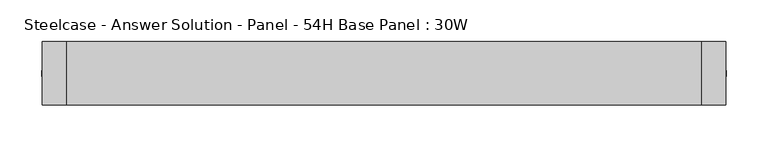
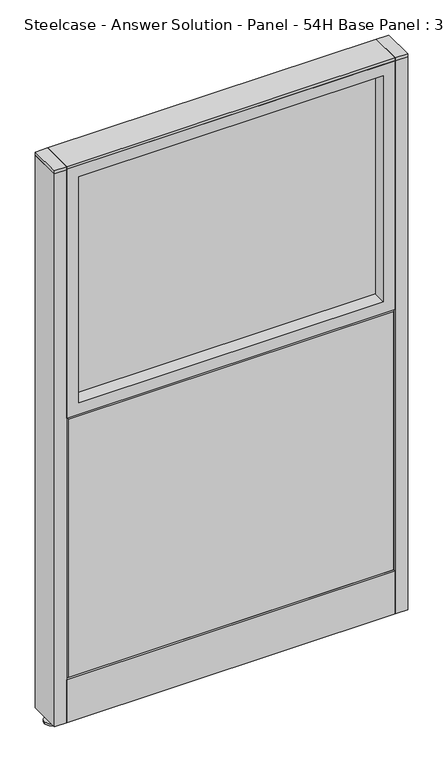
"""IFC4 building model written with IfcOpenShell, lengths in millimetres: furniture geometry, Steelcase - Answer Solution - Panel - 54H Base Panel : 30W."""

from ifc_helpers import new_model, si_unit, point, frame, frame_2d, origin, place, context, project, spatial, polyline, circle_curve, trimmed, segment, composite_curve, outline, extrude, faceted_brep, source, transform, mapped, element, save


def steelcase_answer_solution_panel_54h_base_panel_30w_10e1b337(model_context):
    return source(origin(), model_context, "Body", "SolidModel", [
        extrude(outline(composite_curve([segment(trimmed(circle_curve(frame_2d((395.224, 0.0320214)), 5.08), [point((400.304, 0.0320214))], [point((390.144, 0.0320214))], False, "CARTESIAN"), True, "CONTINUOUS"), segment(trimmed(circle_curve(frame_2d((395.224, 0.0320214)), 5.08), [point((390.144, 0.0320214))], [point((400.304, 0.0320214))], False, "CARTESIAN"), True, "CONTINUOUS")], self_intersect=False)), frame((0.0, 0.0, 5.0799671), z_axis=(0.0, 0.0, 1.0), x_axis=(1.0, 0.0, 0.0)), (0.0, 0.0, 1.0), 10.414),
        extrude(outline(composite_curve([segment(trimmed(circle_curve(frame_2d((395.224, 0.0320214)), 15.24), [point((410.464, 0.0320214))], [point((379.984, 0.0320214))], False, "CARTESIAN"), True, "CONTINUOUS"), segment(trimmed(circle_curve(frame_2d((395.224, 0.0320214)), 15.24), [point((379.984, 0.0320214))], [point((410.464, 0.0320214))], False, "CARTESIAN"), True, "CONTINUOUS")], self_intersect=False)), frame((0.0, 0.0, -3.29e-05), z_axis=(0.0, 0.0, 1.0), x_axis=(1.0, 0.0, 0.0)), (0.0, 0.0, 1.0), 5.08),
        extrude(outline(polyline([(409.575, 38.1320408), (409.575, -38.0679592), (381.0, -38.0679592), (381.0, 38.1320408), (409.575, 38.1320408)])), frame((0.0, 0.0, 1370.6348), z_axis=(0.0, 0.0, 1.0), x_axis=(1.0, 0.0, 0.0)), (0.0, 0.0, 1.0), 7.3151671),
        extrude(outline(polyline([(409.575, 38.1320408), (409.575, -38.0679592), (381.0, -38.0679592), (381.0, 38.1320408), (409.575, 38.1320408)])), frame((0.0, 0.0, 15.4939671), z_axis=(0.0, 0.0, 1.0), x_axis=(1.0, 0.0, 0.0)), (0.0, 0.0, 1.0), 1355.1408329),
        extrude(outline(composite_curve([segment(trimmed(circle_curve(frame_2d((-395.224, 0.0320214)), 5.08), [point((-400.304, 0.0320214))], [point((-390.144, 0.0320214))], False, "CARTESIAN"), True, "CONTINUOUS"), segment(trimmed(circle_curve(frame_2d((-395.224, 0.0320214)), 5.08), [point((-390.144, 0.0320214))], [point((-400.304, 0.0320214))], False, "CARTESIAN"), True, "CONTINUOUS")], self_intersect=False)), frame((0.0, 0.0, 5.0799671), z_axis=(0.0, 0.0, 1.0), x_axis=(1.0, 0.0, 0.0)), (0.0, 0.0, 1.0), 10.414),
        extrude(outline(composite_curve([segment(trimmed(circle_curve(frame_2d((-395.224, 0.0320214)), 15.24), [point((-410.464, 0.0320214))], [point((-379.984, 0.0320214))], False, "CARTESIAN"), True, "CONTINUOUS"), segment(trimmed(circle_curve(frame_2d((-395.224, 0.0320214)), 15.24), [point((-379.984, 0.0320214))], [point((-410.464, 0.0320214))], False, "CARTESIAN"), True, "CONTINUOUS")], self_intersect=False)), frame((0.0, 0.0, -3.29e-05), z_axis=(0.0, 0.0, 1.0), x_axis=(1.0, 0.0, 0.0)), (0.0, 0.0, 1.0), 5.08),
        extrude(outline(polyline([(-409.575, 38.1320408), (-381.0, 38.1320408), (-381.0, -38.0679592), (-409.575, -38.0679592), (-409.575, 38.1320408)])), frame((0.0, 0.0, 1370.6348), z_axis=(0.0, 0.0, 1.0), x_axis=(1.0, 0.0, 0.0)), (0.0, 0.0, 1.0), 7.3151671),
        extrude(outline(polyline([(-409.575, 38.1320408), (-381.0, 38.1320408), (-381.0, -38.0679592), (-409.575, -38.0679592), (-409.575, 38.1320408)])), frame((0.0, 0.0, 15.4939671), z_axis=(0.0, 0.0, 1.0), x_axis=(1.0, 0.0, 0.0)), (0.0, 0.0, 1.0), 1355.1408329),
        extrude(outline(polyline([(-353.06, 6.346049), (353.06, 6.346049), (353.06, -6.353951), (-353.06, -6.353951), (-353.06, 6.346049)])), frame((0.0, 0.0, 789.94), z_axis=(0.0, 0.0, 1.0), x_axis=(1.0, 0.0, 0.0)), (0.0, 0.0, 1.0), 553.72),
        extrude(outline(polyline([(1371.6, -381.0), (762.0, -381.0), (762.0, 381.0), (1371.6, 381.0), (1371.6, -381.0)]), holes=[polyline([(1343.66, -353.06), (1343.66, 353.06), (789.94, 353.06), (789.94, -353.06), (1343.66, -353.06)])]), frame((0.0, -38.103951, 0.0), z_axis=(0.0, 1.0, 0.0), x_axis=(0.0, 0.0, 1.0)), (0.0, 0.0, 1.0), 76.2),
        faceted_brep([(-376.174, 38.1635011, 757.174), (376.174, 38.1635011, 757.174), (376.174, 38.1635011, 125.476), (-376.174, 38.1635011, 125.476), (-381.0, 33.3375011, 762.0), (-381.0, 33.3375011, 120.65), (381.0, 33.3375011, 120.65), (381.0, 33.3375011, 762.0)], [[[0, 1, 2, 3]], [[4, 5, 6, 7]], [[4, 7, 1, 0]], [[7, 6, 2, 1]], [[6, 5, 3, 2]], [[5, 4, 0, 3]]]),
        extrude(outline(polyline([(353.06, -6.346049), (-353.06, -6.346049), (-353.06, 6.353951), (353.06, 6.353951), (353.06, -6.346049)])), frame((0.0, 0.0, 789.94), z_axis=(0.0, 0.0, 1.0), x_axis=(1.0, 0.0, 0.0)), (0.0, 0.0, 1.0), 553.72),
        extrude(outline(polyline([(1371.6, 381.0), (1371.6, -381.0), (762.0, -381.0), (762.0, 381.0), (1371.6, 381.0)]), holes=[polyline([(1343.66, 353.06), (789.94, 353.06), (789.94, -353.06), (1343.66, -353.06), (1343.66, 353.06)])]), frame((0.0, -38.096049, 0.0), z_axis=(0.0, 1.0, 0.0), x_axis=(0.0, 0.0, 1.0)), (0.0, 0.0, 1.0), 76.2),
        faceted_brep([(376.174, -38.1635011, 757.174), (-376.174, -38.1635011, 757.174), (-376.174, -38.1635011, 125.476), (376.174, -38.1635011, 125.476), (381.0, -33.3375011, 762.0), (381.0, -33.3375011, 120.65), (-381.0, -33.3375011, 120.65), (-381.0, -33.3375011, 762.0)], [[[0, 1, 2, 3]], [[4, 5, 6, 7]], [[4, 7, 1, 0]], [[7, 6, 2, 1]], [[6, 5, 3, 2]], [[5, 4, 0, 3]]]),
        extrude(outline(polyline([(381.0, 38.1000194), (381.0, -38.1000194), (-381.0, -38.1000194), (-381.0, 38.1000194), (381.0, 38.1000194)])), frame((0.0, 0.0, 1371.6), z_axis=(0.0, 0.0, 1.0), x_axis=(1.0, 0.0, 0.0)), (0.0, 0.0, 1.0), 6.35),
        extrude(outline(polyline([(25.4000011, 119.8575157), (25.4000011, 120.65), (38.1000194, 120.65), (38.1000194, 15.494), (37.3075215, 15.494), (37.3075215, 119.8575157), (25.4000011, 119.8575157)])), frame((-381.0, 0.0, 0.0), z_axis=(1.0, 0.0, 0.0), x_axis=(0.0, 1.0, 0.0)), (0.0, 0.0, 1.0), 762.0),
        extrude(outline(polyline([(-25.4000011, 119.8575157), (-37.3075215, 119.8575157), (-37.3075215, 15.494), (-38.1000194, 15.494), (-38.1000194, 120.65), (-25.4000011, 120.65), (-25.4000011, 119.8575157)])), frame((-381.0, 0.0, 0.0), z_axis=(1.0, 0.0, 0.0), x_axis=(0.0, 1.0, 0.0)), (0.0, 0.0, 1.0), 762.0),
    ])


if __name__ == "__main__":
    model = new_model("IFC4")
    model_context = context("Model", 3, world=origin())
    ifc_project = project(units=[si_unit("LENGTHUNIT", "METRE", prefix="MILLI")], contexts=[model_context])
    site = spatial("IfcSite", under=ifc_project)
    building = spatial("IfcBuilding", under=site)
    placement = place(None, origin())
    steelcase_answer_solution_panel_54h_base_panel_30w_shape = steelcase_answer_solution_panel_54h_base_panel_30w_10e1b337(model_context)
    element("IfcFurniture", 1, ObjectType="Steelcase - Answer Solution - Panel - 54H Base Panel : 30W", at=placement, inside=building, context=model_context, shape_type="MappedRepresentation", body=[
        mapped(steelcase_answer_solution_panel_54h_base_panel_30w_shape, transform((0.0, 0.0, 0.0), x_axis=(1.0, 0.0, 0.0), y_axis=(0.0, 1.0, 0.0), z_axis=(0.0, 0.0, 1.0))),
    ])
    save(model, "model.ifc")
